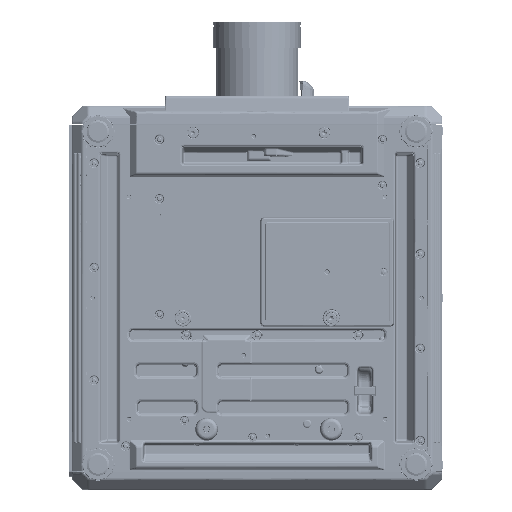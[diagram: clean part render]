
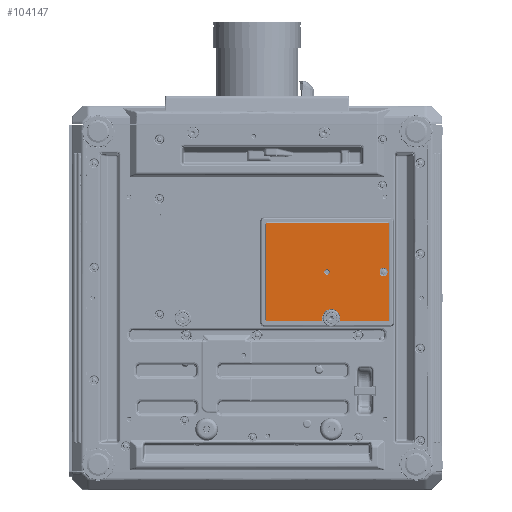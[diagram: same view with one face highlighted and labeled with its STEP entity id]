
A CAD part, front view. The second image highlights one B-rep face of the part: STEP entity #104147.
In plain terms, the highlighted planar face has unit normal (0, -1, 0).
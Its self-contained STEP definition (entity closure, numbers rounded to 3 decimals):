
#9958=ELLIPSE('',#357391,1.504,1.5);
#9959=ELLIPSE('',#357392,1.504,1.5);
#9960=ELLIPSE('',#357394,1.504,1.5);
#9961=ELLIPSE('',#357395,1.504,1.5);
#21893=B_SPLINE_CURVE_WITH_KNOTS('',3,(#539264,#539265,#539266,#539267,
#539268,#539269,#539270,#539271,#539272,#539273,#539274,#539275,#539276,
#539277,#539278,#539279,#539280,#539281,#539282),.UNSPECIFIED.,.F.,.F.,
(4,3,3,3,3,3,4),(0.,0.054,0.243,0.432,
0.621,0.811,1.),.UNSPECIFIED.);
#21894=B_SPLINE_CURVE_WITH_KNOTS('',3,(#539286,#539287,#539288,#539289,
#539290,#539291,#539292,#539293,#539294,#539295,#539296,#539297,#539298,
#539299,#539300,#539301,#539302,#539303,#539304),.UNSPECIFIED.,.F.,.F.,
(4,3,3,3,3,3,4),(0.,0.054,0.243,0.432,
0.621,0.811,1.),.UNSPECIFIED.);
#25228=FACE_BOUND('',#130604,.T.);
#25229=FACE_BOUND('',#130605,.T.);
#25230=FACE_BOUND('',#130606,.T.);
#104147=ADVANCED_FACE('',(#25228,#25229,#25230),#110272,.F.);
#110272=PLANE('',#357396);
#130604=EDGE_LOOP('',(#189041));
#130605=EDGE_LOOP('',(#189042));
#130606=EDGE_LOOP('',(#189043,#189044,#189045,#189046,#189047,#189048,#189049,
#189050,#189051,#189052,#189053,#189054));
#140321=CIRCLE('',#357388,4.);
#140322=CIRCLE('',#357390,6.125);
#140323=CIRCLE('',#357393,13.358);
#189041=ORIENTED_EDGE('',*,*,#275777,.T.);
#189042=ORIENTED_EDGE('',*,*,#275778,.T.);
#189043=ORIENTED_EDGE('',*,*,#275779,.T.);
#189044=ORIENTED_EDGE('',*,*,#275780,.T.);
#189045=ORIENTED_EDGE('',*,*,#275781,.T.);
#189046=ORIENTED_EDGE('',*,*,#275782,.T.);
#189047=ORIENTED_EDGE('',*,*,#275783,.T.);
#189048=ORIENTED_EDGE('',*,*,#275784,.T.);
#189049=ORIENTED_EDGE('',*,*,#275785,.T.);
#189050=ORIENTED_EDGE('',*,*,#275786,.T.);
#189051=ORIENTED_EDGE('',*,*,#275787,.T.);
#189052=ORIENTED_EDGE('',*,*,#275788,.T.);
#189053=ORIENTED_EDGE('',*,*,#275789,.T.);
#189054=ORIENTED_EDGE('',*,*,#275790,.T.);
#230770=VERTEX_POINT('',#539249);
#230771=VERTEX_POINT('',#539252);
#230772=VERTEX_POINT('',#539254);
#230773=VERTEX_POINT('',#539255);
#230774=VERTEX_POINT('',#539257);
#230775=VERTEX_POINT('',#539259);
#230776=VERTEX_POINT('',#539261);
#230777=VERTEX_POINT('',#539263);
#230778=VERTEX_POINT('',#539283);
#230779=VERTEX_POINT('',#539285);
#230780=VERTEX_POINT('',#539305);
#230781=VERTEX_POINT('',#539307);
#230782=VERTEX_POINT('',#539309);
#230783=VERTEX_POINT('',#539311);
#275777=EDGE_CURVE('',#230770,#230770,#140321,.T.);
#275778=EDGE_CURVE('',#230771,#230771,#140322,.T.);
#275779=EDGE_CURVE('',#230772,#230773,#306501,.T.);
#275780=EDGE_CURVE('',#230773,#230774,#9958,.T.);
#275781=EDGE_CURVE('',#230774,#230775,#306502,.T.);
#275782=EDGE_CURVE('',#230775,#230776,#9959,.T.);
#275783=EDGE_CURVE('',#230776,#230777,#306503,.T.);
#275784=EDGE_CURVE('',#230777,#230778,#21893,.T.);
#275785=EDGE_CURVE('',#230778,#230779,#140323,.T.);
#275786=EDGE_CURVE('',#230779,#230780,#21894,.T.);
#275787=EDGE_CURVE('',#230780,#230781,#306504,.T.);
#275788=EDGE_CURVE('',#230781,#230782,#9960,.T.);
#275789=EDGE_CURVE('',#230782,#230783,#306505,.T.);
#275790=EDGE_CURVE('',#230783,#230772,#9961,.T.);
#306501=LINE('',#539253,#332889);
#306502=LINE('',#539258,#332890);
#306503=LINE('',#539262,#332891);
#306504=LINE('',#539306,#332892);
#306505=LINE('',#539310,#332893);
#332889=VECTOR('',#427263,1.);
#332890=VECTOR('',#427266,1.);
#332891=VECTOR('',#427269,1.);
#332892=VECTOR('',#427272,1.);
#332893=VECTOR('',#427275,1.);
#357388=AXIS2_PLACEMENT_3D('',#539248,#427257,#427258);
#357390=AXIS2_PLACEMENT_3D('',#539251,#427261,#427262);
#357391=AXIS2_PLACEMENT_3D('',#539256,#427264,#427265);
#357392=AXIS2_PLACEMENT_3D('',#539260,#427267,#427268);
#357393=AXIS2_PLACEMENT_3D('',#539284,#427270,#427271);
#357394=AXIS2_PLACEMENT_3D('',#539308,#427273,#427274);
#357395=AXIS2_PLACEMENT_3D('',#539312,#427276,#427277);
#357396=AXIS2_PLACEMENT_3D('',#539313,#427278,#427279);
#427257=DIRECTION('',(0.,1.,0.));
#427258=DIRECTION('',(0.,0.,1.));
#427261=DIRECTION('',(0.,1.,0.));
#427262=DIRECTION('',(0.,0.,1.));
#427263=DIRECTION('',(-1.,0.,0.));
#427264=DIRECTION('',(0.,-1.,0.));
#427265=DIRECTION('',(0.707,0.,-0.707));
#427266=DIRECTION('',(0.,0.,-1.));
#427267=DIRECTION('',(0.,-1.,0.));
#427268=DIRECTION('',(-0.707,0.,-0.707));
#427269=DIRECTION('',(1.,0.,0.));
#427270=DIRECTION('',(0.,1.,0.));
#427271=DIRECTION('',(0.,0.,1.));
#427272=DIRECTION('',(1.,0.,0.));
#427273=DIRECTION('',(0.,-1.,0.));
#427274=DIRECTION('',(-0.707,0.,0.707));
#427275=DIRECTION('',(0.,0.,1.));
#427276=DIRECTION('',(0.,-1.,0.));
#427277=DIRECTION('',(-0.707,0.,-0.707));
#427278=DIRECTION('',(0.,1.,0.));
#427279=DIRECTION('',(0.,0.,1.));
#539248=CARTESIAN_POINT('',(103.8,-116.5,-1.5));
#539249=CARTESIAN_POINT('',(103.8,-116.5,2.5));
#539251=CARTESIAN_POINT('',(187.8,-116.5,-1.5));
#539252=CARTESIAN_POINT('',(187.8,-116.5,4.625));
#539253=CARTESIAN_POINT('',(110.,-116.5,71.642));
#539254=CARTESIAN_POINT('',(193.644,-116.5,71.642));
#539255=CARTESIAN_POINT('',(14.356,-116.5,71.642));
#539256=CARTESIAN_POINT('',(14.36,-116.5,70.14));
#539257=CARTESIAN_POINT('',(12.858,-116.5,70.144));
#539258=CARTESIAN_POINT('',(12.858,-116.5,-70.));
#539259=CARTESIAN_POINT('',(12.858,-116.5,-73.144));
#539260=CARTESIAN_POINT('',(14.36,-116.5,-73.14));
#539261=CARTESIAN_POINT('',(14.356,-116.5,-74.642));
#539262=CARTESIAN_POINT('',(110.,-116.5,-74.642));
#539263=CARTESIAN_POINT('',(95.481,-116.5,-74.642));
#539264=CARTESIAN_POINT('',(95.481,-116.5,-74.642));
#539265=CARTESIAN_POINT('',(95.529,-116.5,-74.642));
#539266=CARTESIAN_POINT('',(95.578,-116.5,-74.64));
#539267=CARTESIAN_POINT('',(95.627,-116.5,-74.635));
#539268=CARTESIAN_POINT('',(95.794,-116.5,-74.619));
#539269=CARTESIAN_POINT('',(95.96,-116.5,-74.574));
#539270=CARTESIAN_POINT('',(96.112,-116.5,-74.503));
#539271=CARTESIAN_POINT('',(96.264,-116.5,-74.433));
#539272=CARTESIAN_POINT('',(96.405,-116.5,-74.335));
#539273=CARTESIAN_POINT('',(96.525,-116.5,-74.219));
#539274=CARTESIAN_POINT('',(96.645,-116.5,-74.102));
#539275=CARTESIAN_POINT('',(96.747,-116.5,-73.963));
#539276=CARTESIAN_POINT('',(96.822,-116.5,-73.813));
#539277=CARTESIAN_POINT('',(96.897,-116.5,-73.662));
#539278=CARTESIAN_POINT('',(96.947,-116.5,-73.497));
#539279=CARTESIAN_POINT('',(96.967,-116.5,-73.33));
#539280=CARTESIAN_POINT('',(96.988,-116.5,-73.164));
#539281=CARTESIAN_POINT('',(96.98,-116.5,-72.991));
#539282=CARTESIAN_POINT('',(96.945,-116.5,-72.827));
#539283=CARTESIAN_POINT('',(96.945,-116.5,-72.827));
#539284=CARTESIAN_POINT('',(110.,-116.5,-70.));
#539285=CARTESIAN_POINT('',(123.055,-116.5,-72.827));
#539286=CARTESIAN_POINT('',(123.055,-116.5,-72.827));
#539287=CARTESIAN_POINT('',(123.045,-116.5,-72.875));
#539288=CARTESIAN_POINT('',(123.037,-116.5,-72.923));
#539289=CARTESIAN_POINT('',(123.031,-116.5,-72.972));
#539290=CARTESIAN_POINT('',(123.012,-116.5,-73.138));
#539291=CARTESIAN_POINT('',(123.021,-116.5,-73.31));
#539292=CARTESIAN_POINT('',(123.058,-116.5,-73.473));
#539293=CARTESIAN_POINT('',(123.094,-116.5,-73.637));
#539294=CARTESIAN_POINT('',(123.159,-116.5,-73.796));
#539295=CARTESIAN_POINT('',(123.248,-116.5,-73.938));
#539296=CARTESIAN_POINT('',(123.337,-116.5,-74.08));
#539297=CARTESIAN_POINT('',(123.451,-116.5,-74.209));
#539298=CARTESIAN_POINT('',(123.582,-116.5,-74.313));
#539299=CARTESIAN_POINT('',(123.713,-116.5,-74.418));
#539300=CARTESIAN_POINT('',(123.864,-116.5,-74.502));
#539301=CARTESIAN_POINT('',(124.023,-116.5,-74.558));
#539302=CARTESIAN_POINT('',(124.181,-116.5,-74.613));
#539303=CARTESIAN_POINT('',(124.351,-116.5,-74.642));
#539304=CARTESIAN_POINT('',(124.519,-116.5,-74.642));
#539305=CARTESIAN_POINT('',(124.519,-116.5,-74.642));
#539306=CARTESIAN_POINT('',(110.,-116.5,-74.642));
#539307=CARTESIAN_POINT('',(193.644,-116.5,-74.642));
#539308=CARTESIAN_POINT('',(193.64,-116.5,-73.14));
#539309=CARTESIAN_POINT('',(195.142,-116.5,-73.144));
#539310=CARTESIAN_POINT('',(195.142,-116.5,-70.));
#539311=CARTESIAN_POINT('',(195.142,-116.5,70.144));
#539312=CARTESIAN_POINT('',(193.64,-116.5,70.14));
#539313=CARTESIAN_POINT('',(110.,-116.5,-70.));
